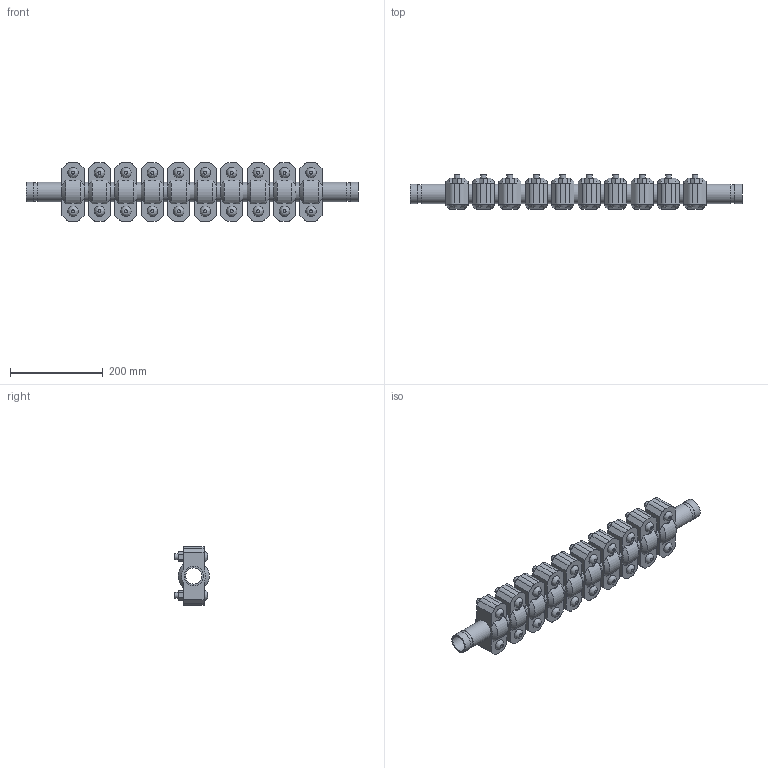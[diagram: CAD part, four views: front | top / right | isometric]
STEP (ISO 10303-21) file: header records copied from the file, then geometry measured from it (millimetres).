
FILE_DESCRIPTION(/* description */ ('VIC EXPANSION JOINT 10 COUPLINGS COMPRESSED STYLE 155 (OGS)','CAx-IF Rec.Pracs.---Representation and Presentation of Product Manufacturing Information (PMI)---4.0---2014-10-13'),/* implementation_level */ '2;1');
FILE_NAME(/* name */ 'C:\Users\kkamble\AppData\Roaming\Autodesk\ApplicationPlugins\Victaulic.Temp\A539\Victaulic_IPS_Expansion Joint_Compressed_10 Couplings_Style 155 (OGS)_1.25 (32).stp',/* time_stamp */ '2021-06-27T00:16:13+02:00',/* author */ ('kkamble'),/* organization */ ('Victaulic'),/* preprocessor_version */ 'ST-DEVELOPER v17.2',/* originating_system */ 'Autodesk Inventor 2019',/* authorisation */ '');
FILE_SCHEMA (('AP242_MANAGED_MODEL_BASED_3D_ENGINEERING_MIM_LF { 1 0 10303 442 1 1 4 }'));
Length unit declared in the file: inch
Products named in the file (4): 155-01.25; Nipple-01.25; Nipple-01.25_1; 077-01.25
Assembly tree (21 placements, depth 2):
  155-01.25
    Nipple-01.25  x2
    Nipple-01.25_1  x9
    077-01.25  x10
Bounding box: 717.55 x 74.93 x 127 mm (x, y, z)
Volume: 2576910.5 mm3; surface area: 600507.7 mm2
Topology: 21 solids, 41 shells, 702 faces, 1720 edges, 1204 vertices
Faces by surface type: plane 406, cylinder 236, cone 40, bspline 20
Full cylindrical faces by diameter (mm): 12.7 x40, 14.605 x20, 35.052 x11, 38.989 x22, 42.164 x43
Entity records: 2955 total; most frequent: CARTESIAN_POINT 551, DIRECTION 487, ORIENTED_EDGE 398, EDGE_CURVE 199, AXIS2_PLACEMENT_3D 196, VERTEX_POINT 142, EDGE_LOOP 105, LINE 95
